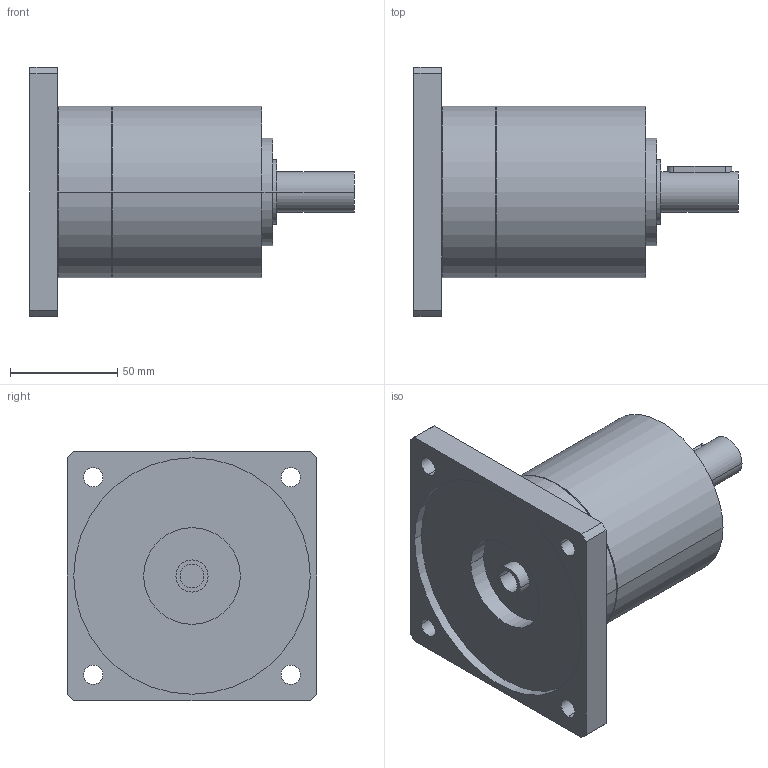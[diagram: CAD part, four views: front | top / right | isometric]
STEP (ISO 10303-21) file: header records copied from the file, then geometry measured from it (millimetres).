
FILE_DESCRIPTION(('CoCreate Modeling STEP Export'),'2;1');
FILE_NAME('GPR100_ig-3-4-5-6_19_B14_11_P08.stp','2014-08-26T10:01:39',(''),(''),'CoCreate Modeling STEP processor for AP214 (Solid Model)','CoCreate Modeling 16.00C 25-Feb-2009 (C) Parametric Technology GmbH','');
FILE_SCHEMA(('AUTOMOTIVE_DESIGN { 1 0 10303 214 1 1 1 1 }'));
Length unit declared in the file: millimetre
Products named in the file (2): GPR100_ig-3-4-5-6_19_B14_11_P08
Assembly tree (1 placements, depth 2):
  GPR100_ig-3-4-5-6_19_B14_11_P08
    GPR100_ig-3-4-5-6_19_B14_11_P08
Bounding box: 151 x 116 x 116 mm (x, y, z)
Volume: 611316.2 mm3; surface area: 66529.2 mm2
Topology: 1 solids, 1 shells, 70 faces, 189 edges, 133 vertices
Faces by surface type: cylinder 42, plane 22, cone 6
Entity records: 1944 total; most frequent: ORIENTED_EDGE 374, CARTESIAN_POINT 361, DIRECTION 262, EDGE_CURVE 187, VERTEX_POINT 133, AXIS2_PLACEMENT_3D 98, EDGE_LOOP 92, FACE_OUTER_BOUND 70
